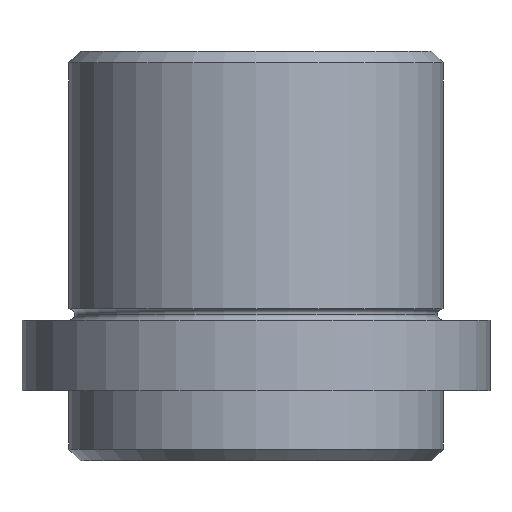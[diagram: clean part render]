
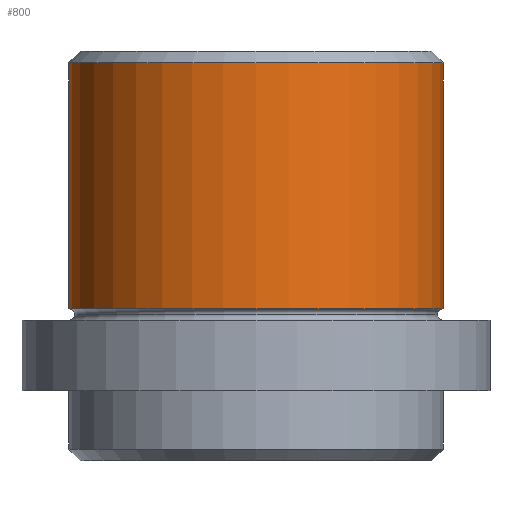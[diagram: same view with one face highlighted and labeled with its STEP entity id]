
A CAD part, front view. The second image highlights one B-rep face of the part: STEP entity #800.
In plain terms, the highlighted cylindrical face has radius 16 mm (diameter 32 mm), a partial arc.
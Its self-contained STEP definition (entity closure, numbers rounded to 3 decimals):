
#7 = ORIENTED_EDGE ( 'NONE', *, *, #450, .T. ) ;
#11 = DIRECTION ( 'NONE',  ( -1., 0., 0. ) ) ;
#39 = LINE ( 'NONE', #568, #580 ) ;
#73 = CARTESIAN_POINT ( 'NONE',  ( -16., 0., -1. ) ) ;
#93 = CARTESIAN_POINT ( 'NONE',  ( 16., 0., -22. ) ) ;
#105 = CARTESIAN_POINT ( 'NONE',  ( 16., 0., -1. ) ) ;
#156 = CARTESIAN_POINT ( 'NONE',  ( 0., 0., -22. ) ) ;
#160 = VECTOR ( 'NONE', #383, 1000. ) ;
#171 = CARTESIAN_POINT ( 'NONE',  ( 0., 0., 0. ) ) ;
#228 = DIRECTION ( 'NONE',  ( 1., 0., 0. ) ) ;
#230 = DIRECTION ( 'NONE',  ( 0., 0., 1. ) ) ;
#233 = CARTESIAN_POINT ( 'NONE',  ( -16., 0., 0. ) ) ;
#240 = FACE_OUTER_BOUND ( 'NONE', #343, .T. ) ;
#263 = CIRCLE ( 'NONE', #477, 16. ) ;
#282 = AXIS2_PLACEMENT_3D ( 'NONE', #171, #780, #712 ) ;
#284 = VERTEX_POINT ( 'NONE', #73 ) ;
#343 = EDGE_LOOP ( 'NONE', ( #519, #7, #668, #688 ) ) ;
#365 = DIRECTION ( 'NONE',  ( 0., 0., -1. ) ) ;
#372 = LINE ( 'NONE', #233, #160 ) ;
#383 = DIRECTION ( 'NONE',  ( 0., 0., 1. ) ) ;
#414 = EDGE_CURVE ( 'NONE', #805, #284, #263, .T. ) ;
#450 = EDGE_CURVE ( 'NONE', #797, #464, #612, .T. ) ;
#461 = EDGE_CURVE ( 'NONE', #797, #284, #372, .T. ) ;
#464 = VERTEX_POINT ( 'NONE', #93 ) ;
#477 = AXIS2_PLACEMENT_3D ( 'NONE', #492, #365, #11 ) ;
#492 = CARTESIAN_POINT ( 'NONE',  ( 0., 0., -1. ) ) ;
#519 = ORIENTED_EDGE ( 'NONE', *, *, #461, .F. ) ;
#568 = CARTESIAN_POINT ( 'NONE',  ( 16., 0., 0. ) ) ;
#580 = VECTOR ( 'NONE', #776, 1000. ) ;
#612 = CIRCLE ( 'NONE', #827, 16. ) ;
#668 = ORIENTED_EDGE ( 'NONE', *, *, #791, .T. ) ;
#688 = ORIENTED_EDGE ( 'NONE', *, *, #414, .T. ) ;
#712 = DIRECTION ( 'NONE',  ( 1., 0., 0. ) ) ;
#716 = CARTESIAN_POINT ( 'NONE',  ( -16., 0., -22. ) ) ;
#758 = CYLINDRICAL_SURFACE ( 'NONE', #282, 16. ) ;
#776 = DIRECTION ( 'NONE',  ( 0., 0., 1. ) ) ;
#780 = DIRECTION ( 'NONE',  ( 0., 0., 1. ) ) ;
#791 = EDGE_CURVE ( 'NONE', #464, #805, #39, .T. ) ;
#797 = VERTEX_POINT ( 'NONE', #716 ) ;
#800 = ADVANCED_FACE ( 'NONE', ( #240 ), #758, .T. ) ;
#805 = VERTEX_POINT ( 'NONE', #105 ) ;
#827 = AXIS2_PLACEMENT_3D ( 'NONE', #156, #230, #228 ) ;
